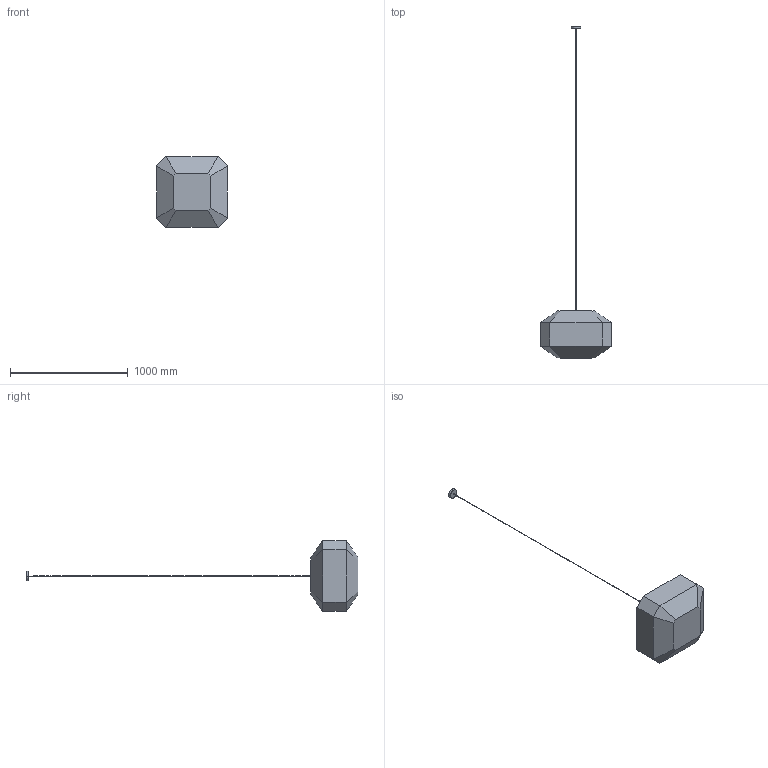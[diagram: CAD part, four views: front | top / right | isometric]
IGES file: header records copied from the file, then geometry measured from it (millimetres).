
Start section: SolidWorks IGES file using analytic representation for surfaces
Global section: file name: C:\Users\danielet\Desktop\3D CARLOS\BAUHAUS-C3917-3D\BAUHAUS-C3917-3D.IGS; native system: SolidWorks 2018; preprocessor: SolidWorks 2018; author: danielet; date: 220204.114338; units: millimetre
Bounding box: 600 x 2825 x 600 mm (x, y, z)
Surface area: 1278109.5 mm2 (no closed solid volume)
Topology: 0 solids, 0 shells, 35 faces, 392 edges, 392 vertices
Faces by surface type: bspline 29, revolution 6
